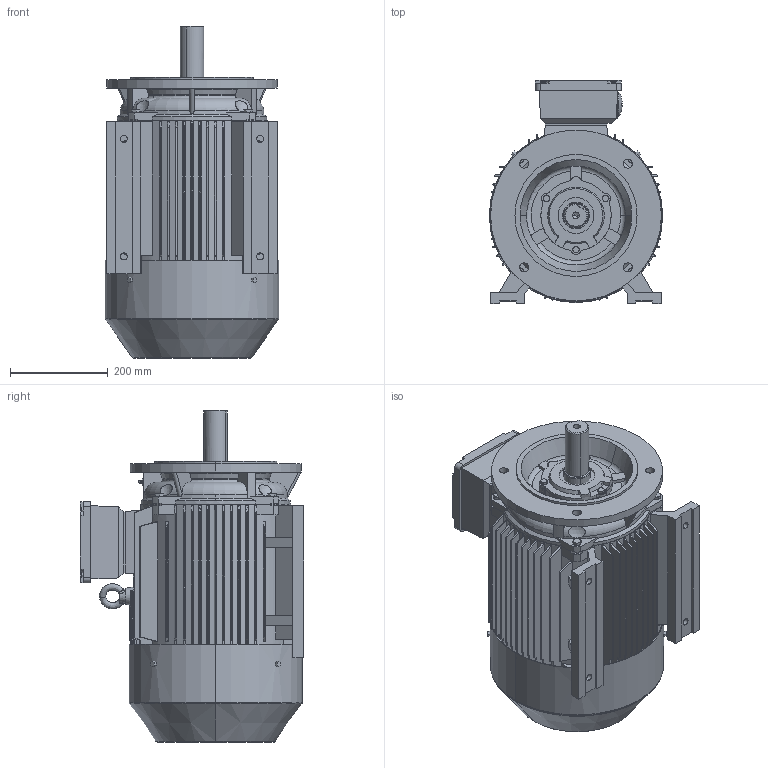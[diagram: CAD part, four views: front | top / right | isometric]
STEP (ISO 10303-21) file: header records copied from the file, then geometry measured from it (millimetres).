
FILE_DESCRIPTION (( 'STEP AP203' ), '1' );
FILE_NAME ('TE3-180M-4 B35上2018.STEP', '2019-11-19T03:21:28', ( '微软用户' ), ( '微软中国' ), 'SwSTEP 2.0', 'SolidWorks 2012', '' );
FILE_SCHEMA (( 'CONFIG_CONTROL_DESIGN' ));
Length unit declared in the file: millimetre
Products named in the file (14): TE3-180M-4 B35奻2018; 蚐戚; hexagon head bolts gb_GB_FASTENER_BOLT_SB A M8X40-N; hexagon head bolts-full thread gb_GB_FASTENER_BOLT_STBAB A M10X20-N; 5EJ.354.484GX160~180P24諉盄碟; hexagon head bolts-full thread gb_GB_FASTENER_BOLT_STBAB A M6X12-N; 8EJ.353.10053GX160~180P24諉盄碟裔; 8EJ.354.593Y2-160~180P24諉盄碟釱; eyebolts gb_GB_FASTENER_SCREWS_FRS M12-N; YX3-180 粣ㄗ粣扥ㄘ; YX3-180-4,6,8粣創俋裔; YX3-180 瑞欶; Y2-180-4,6,8芧埽傷裔017.00089; Y2-180M 001儂釱
Assembly tree (22 placements, depth 3):
  TE3-180M-4 B35奻2018
    Y2-180M 001儂釱
    Y2-180-4,6,8芧埽傷裔017.00089
    YX3-180 瑞欶
    YX3-180-4,6,8粣創俋裔
    YX3-180 粣ㄗ粣扥ㄘ
    eyebolts gb_GB_FASTENER_SCREWS_FRS M12-N
    5EJ.354.484GX160~180P24諉盄碟  x2
      8EJ.354.593Y2-160~180P24諉盄碟釱
      8EJ.353.10053GX160~180P24諉盄碟裔
      hexagon head bolts-full thread gb_GB_FASTENER_BOLT_STBAB A M6X12-N
    hexagon head bolts-full thread gb_GB_FASTENER_BOLT_STBAB A M10X20-N  x4
    hexagon head bolts gb_GB_FASTENER_BOLT_SB A M8X40-N  x3
    蚐戚
Bounding box: 355 x 457 x 680 mm (x, y, z)
Volume: 36157000.2 mm3; surface area: 2722117.3 mm2
Topology: 27 solids, 29 shells, 3384 faces, 8808 edges, 5783 vertices
Faces by surface type: plane 1710, cylinder 1233, cone 322, torus 67, bspline 42, sphere 10
Entity records: 99636 total; most frequent: CARTESIAN_POINT 23778, ORIENTED_EDGE 15522, DIRECTION 15520, EDGE_CURVE 7761, AXIS2_PLACEMENT_3D 5508, VERTEX_POINT 5130, LINE 4504, VECTOR 4504
